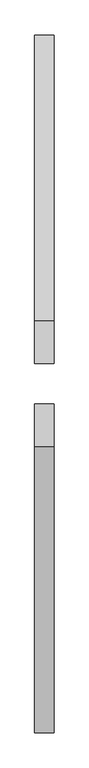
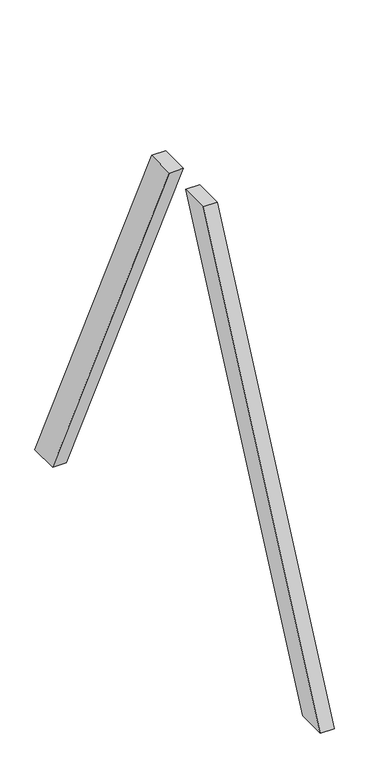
"""IFC4 building model written with IfcOpenShell, lengths in millimetres: column geometry, 結構柱 1 : 結構柱 1."""

from ifc_helpers import new_model, si_unit, frame, origin, place, context, project, spatial, polyline, outline, extrude, source, transform, mapped, element, save


def column_7ae49d58(model_context):
    return source(origin(), model_context, "Body", "SweptSolid", [
        extrude(outline(polyline([(-8712.6530342, -2754.9702065), (-4331.7064788, 6640.0), (-3669.6797274, 6640.0), (-8050.6262828, -2754.9702065), (-8712.6530342, -2754.9702065)])), frame((-7395.9746769, 0.0, 0.0), z_axis=(1.0, 0.0, 0.0), x_axis=(0.0, 1.0, 0.0)), (0.0, 0.0, 1.0), 300.0),
        extrude(outline(polyline([(1991.7769217, -2754.9702065), (1329.7501704, -2754.9702065), (-3051.1963851, 6640.0), (-2389.1696337, 6640.0), (1991.7769217, -2754.9702065)])), frame((-7395.9746769, 0.0, 0.0), z_axis=(1.0, 0.0, 0.0), x_axis=(0.0, 1.0, 0.0)), (0.0, 0.0, 1.0), 300.0),
    ])


if __name__ == "__main__":
    model = new_model("IFC4")
    model_context = context("Model", 3, world=origin())
    ifc_project = project(units=[si_unit("LENGTHUNIT", "METRE", prefix="MILLI")], contexts=[model_context])
    site = spatial("IfcSite", under=ifc_project)
    building = spatial("IfcBuilding", under=site)
    placement = place(None, origin())
    column_shape = column_7ae49d58(model_context)
    element("IfcColumn", 1, ObjectType="結構柱 1 : 結構柱 1", at=placement, inside=building, context=model_context, shape_type="MappedRepresentation", body=[
        mapped(column_shape, transform((0.0, 0.0, 0.0), x_axis=(1.0, 0.0, 0.0), y_axis=(0.0, 1.0, 0.0), z_axis=(0.0, 0.0, 1.0))),
    ])
    save(model, "model.ifc")
